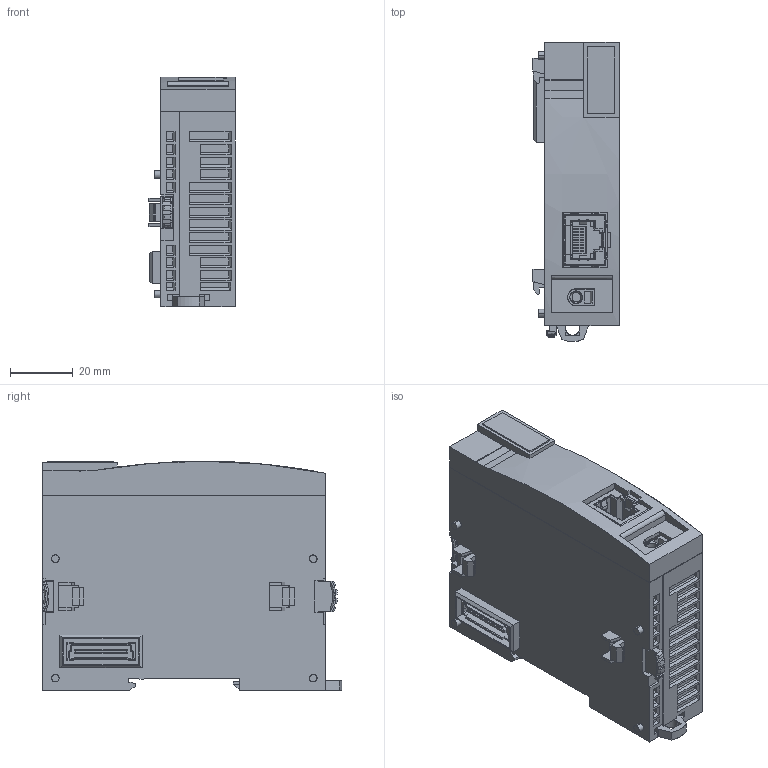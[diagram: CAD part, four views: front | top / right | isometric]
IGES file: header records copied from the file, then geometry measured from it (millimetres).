
Start section: SolidWorks IGES file using analytic representation for surfaces
Global section: file name: \\s-w08-ifile002\003_技術管理室\_3D外形図中間ファイル[受渡し用]\OUTSIDE-FC6A-EXM1M.IGS; native system: SolidWorks 2014; preprocessor: SolidWorks 2014; author: 1002813; date: 170630.125558; units: millimetre
Bounding box: 27.4 x 95.11 x 73 mm (x, y, z)
Surface area: 44787.6 mm2 (no closed solid volume)
Topology: 0 solids, 0 shells, 1444 faces, 9702 edges, 9700 vertices
Faces by surface type: bspline 1220, revolution 224
